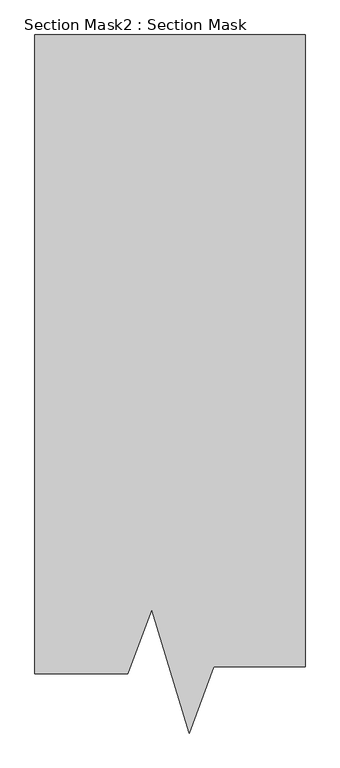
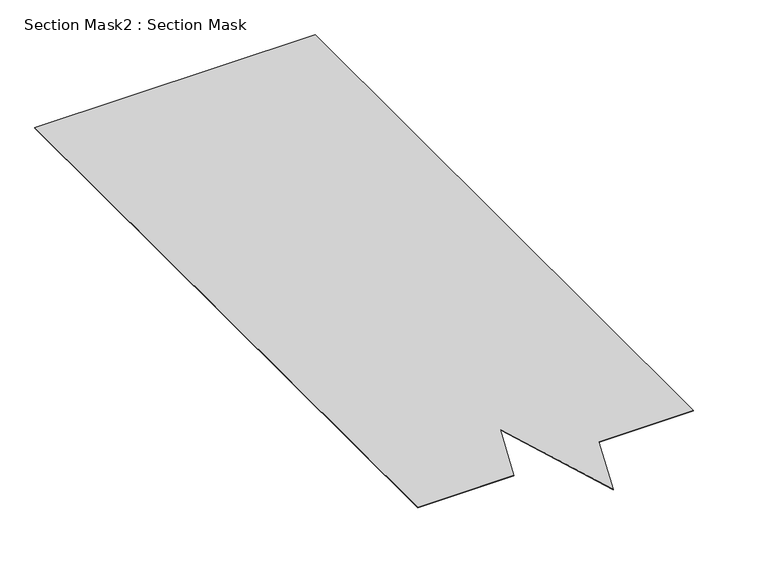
"""IFC4 building model written with IfcOpenShell, lengths in millimetres: proxy geometry, Section Mask2 : Section Mask."""

from ifc_helpers import new_model, si_unit, frame, origin, place, context, project, spatial, polyline, outline, extrude, source, transform, mapped, element, save


def section_mask2_section_mask_4546d134(model_context):
    return source(origin(), model_context, "Body", "SweptSolid", [
        extrude(outline(polyline([(7940.7413927, 885.273934), (7673.7031675, 885.273934), (7673.7031675, 2719.4614947), (8449.1392306, 2719.4614947), (8449.1392306, 906.1224056), (8187.4305384, 906.1224056), (8117.0424454, 715.5030037), (8008.7938586, 1069.5681773), (7940.7413927, 885.273934)])), frame((0.0, 0.0, 45.0273345), z_axis=(0.0, 0.0, 1.0), x_axis=(1.0, 0.0, 0.0)), (0.0, 0.0, 1.0), 1.469501),
    ])


if __name__ == "__main__":
    model = new_model("IFC4")
    model_context = context("Model", 3, world=origin())
    ifc_project = project(units=[si_unit("LENGTHUNIT", "METRE", prefix="MILLI")], contexts=[model_context])
    site = spatial("IfcSite", under=ifc_project)
    building = spatial("IfcBuilding", under=site)
    placement = place(None, origin())
    section_mask2_section_mask_shape = section_mask2_section_mask_4546d134(model_context)
    element("IfcBuildingElementProxy", 1, Name="Section Mask2 : Section Mask", ObjectType="Section Mask2 : Section Mask", at=placement, inside=building, context=model_context, shape_type="MappedRepresentation", body=[
        mapped(section_mask2_section_mask_shape, transform((0.0, 0.0, 0.0), x_axis=(1.0, 0.0, 0.0), y_axis=(0.0, 1.0, 0.0), z_axis=(0.0, 0.0, 1.0))),
    ])
    save(model, "model.ifc")
